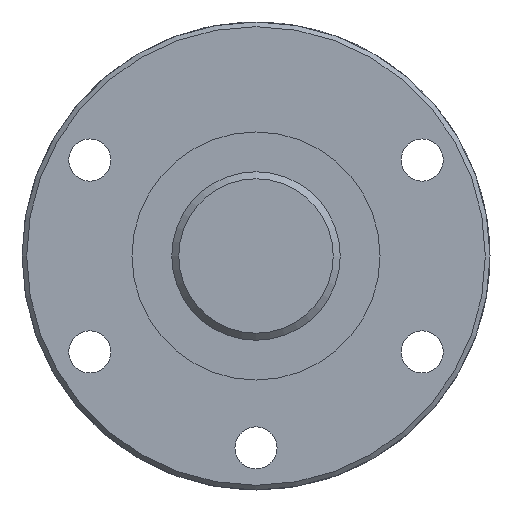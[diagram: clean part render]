
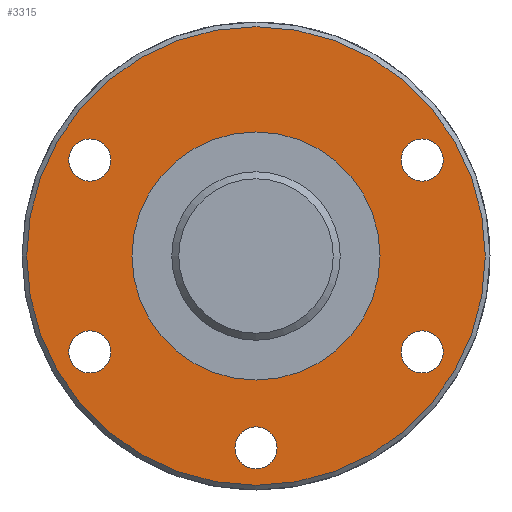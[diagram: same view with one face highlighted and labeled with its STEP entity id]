
A CAD part, left-side view. The second image highlights one B-rep face of the part: STEP entity #3315.
In plain terms, the highlighted planar face has unit normal (-1, 0, 0).
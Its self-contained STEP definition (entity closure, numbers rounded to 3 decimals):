
#1210=ORIENTED_EDGE('',*,*,#2030,.T.);
#1211=ORIENTED_EDGE('',*,*,#2031,.T.);
#1212=ORIENTED_EDGE('',*,*,#2032,.T.);
#1213=ORIENTED_EDGE('',*,*,#2033,.T.);
#1214=ORIENTED_EDGE('',*,*,#2034,.T.);
#1215=ORIENTED_EDGE('',*,*,#2035,.T.);
#1216=ORIENTED_EDGE('',*,*,#2036,.F.);
#2030=EDGE_CURVE('',#2429,#2429,#2558,.T.);
#2031=EDGE_CURVE('',#2430,#2430,#2559,.T.);
#2032=EDGE_CURVE('',#2431,#2431,#2560,.T.);
#2033=EDGE_CURVE('',#2432,#2432,#2561,.T.);
#2034=EDGE_CURVE('',#2433,#2433,#2562,.T.);
#2035=EDGE_CURVE('',#2434,#2434,#2563,.T.);
#2036=EDGE_CURVE('',#2435,#2435,#2564,.T.);
#2429=VERTEX_POINT('',#5329);
#2430=VERTEX_POINT('',#5331);
#2431=VERTEX_POINT('',#5333);
#2432=VERTEX_POINT('',#5335);
#2433=VERTEX_POINT('',#5337);
#2434=VERTEX_POINT('',#5339);
#2435=VERTEX_POINT('',#5341);
#2558=CIRCLE('',#3560,26.5);
#2559=CIRCLE('',#3561,4.5);
#2560=CIRCLE('',#3562,4.5);
#2561=CIRCLE('',#3563,4.5);
#2562=CIRCLE('',#3564,4.5);
#2563=CIRCLE('',#3565,4.5);
#2564=CIRCLE('',#3566,49.);
#2704=EDGE_LOOP('',(#1210));
#2705=EDGE_LOOP('',(#1211));
#2706=EDGE_LOOP('',(#1212));
#2707=EDGE_LOOP('',(#1213));
#2708=EDGE_LOOP('',(#1214));
#2709=EDGE_LOOP('',(#1215));
#2710=EDGE_LOOP('',(#1216));
#2951=FACE_BOUND('',#2704,.T.);
#2952=FACE_BOUND('',#2705,.T.);
#2953=FACE_BOUND('',#2706,.T.);
#2954=FACE_BOUND('',#2707,.T.);
#2955=FACE_BOUND('',#2708,.T.);
#2956=FACE_BOUND('',#2709,.T.);
#2957=FACE_BOUND('',#2710,.T.);
#3169=PLANE('',#3559);
#3315=ADVANCED_FACE('',(#2951,#2952,#2953,#2954,#2955,#2956,#2957),#3169,
 .T.);
#3559=AXIS2_PLACEMENT_3D('',#5327,#4183,#4184);
#3560=AXIS2_PLACEMENT_3D('',#5328,#4185,#4186);
#3561=AXIS2_PLACEMENT_3D('',#5330,#4187,#4188);
#3562=AXIS2_PLACEMENT_3D('',#5332,#4189,#4190);
#3563=AXIS2_PLACEMENT_3D('',#5334,#4191,#4192);
#3564=AXIS2_PLACEMENT_3D('',#5336,#4193,#4194);
#3565=AXIS2_PLACEMENT_3D('',#5338,#4195,#4196);
#3566=AXIS2_PLACEMENT_3D('',#5340,#4197,#4198);
#4183=DIRECTION('',(-1.,0.,0.));
#4184=DIRECTION('',(0.,0.,1.));
#4185=DIRECTION('',(1.,0.,0.));
#4186=DIRECTION('',(0.,0.,-1.));
#4187=DIRECTION('',(1.,0.,0.));
#4188=DIRECTION('',(0.,0.,-1.));
#4189=DIRECTION('',(1.,0.,0.));
#4190=DIRECTION('',(0.,0.,-1.));
#4191=DIRECTION('',(1.,0.,0.));
#4192=DIRECTION('',(0.,0.,-1.));
#4193=DIRECTION('',(1.,0.,0.));
#4194=DIRECTION('',(0.,0.,-1.));
#4195=DIRECTION('',(1.,0.,0.));
#4196=DIRECTION('',(0.,0.,-1.));
#4197=DIRECTION('',(1.,0.,0.));
#4198=DIRECTION('',(0.,0.,-1.));
#5327=CARTESIAN_POINT('',(0.,49.,0.));
#5328=CARTESIAN_POINT('',(0.,0.,0.));
#5329=CARTESIAN_POINT('',(0.,0.,-26.5));
#5330=CARTESIAN_POINT('',(0.,-41.,0.));
#5331=CARTESIAN_POINT('',(0.,-41.,-4.5));
#5332=CARTESIAN_POINT('',(0.,-20.5,35.507));
#5333=CARTESIAN_POINT('',(0.,-20.5,31.007));
#5334=CARTESIAN_POINT('',(0.,20.5,-35.507));
#5335=CARTESIAN_POINT('',(0.,20.5,-40.007));
#5336=CARTESIAN_POINT('',(0.,-20.5,-35.507));
#5337=CARTESIAN_POINT('',(0.,-20.5,-40.007));
#5338=CARTESIAN_POINT('',(0.,20.5,35.507));
#5339=CARTESIAN_POINT('',(0.,20.5,31.007));
#5340=CARTESIAN_POINT('',(0.,0.,0.));
#5341=CARTESIAN_POINT('',(0.,0.,-49.));
